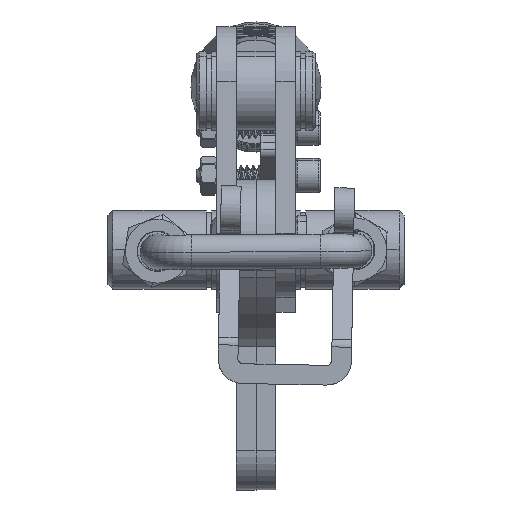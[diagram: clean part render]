
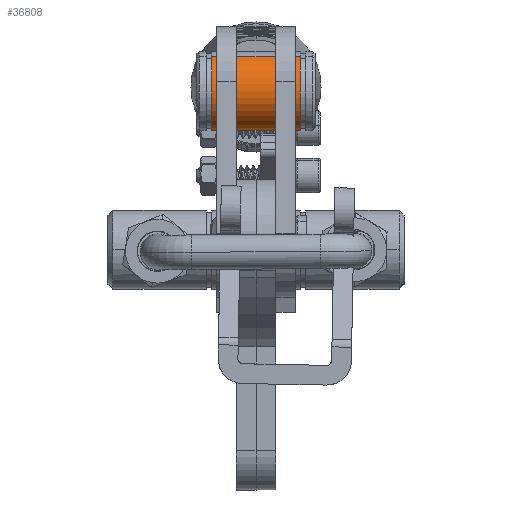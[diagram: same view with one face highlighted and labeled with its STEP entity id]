
A CAD part, left-side view. The second image highlights one B-rep face of the part: STEP entity #36808.
In plain terms, the highlighted cylindrical face has radius 8 mm (diameter 16 mm), a partial arc.
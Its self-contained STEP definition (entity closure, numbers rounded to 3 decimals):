
#2713 = DIRECTION ( 'NONE',  ( -1., 0., 0. ) ) ;
#3429 = LINE ( 'NONE', #18180, #16635 ) ;
#6455 = CARTESIAN_POINT ( 'NONE',  ( -9., 8., 0. ) ) ;
#8659 = FACE_OUTER_BOUND ( 'NONE', #43659, .T. ) ;
#8725 = AXIS2_PLACEMENT_3D ( 'NONE', #47812, #44881, #37368 ) ;
#9012 = EDGE_CURVE ( 'NONE', #45244, #23231, #23413, .T. ) ;
#9397 = EDGE_CURVE ( 'NONE', #28894, #43527, #31273, .T. ) ;
#10599 = ORIENTED_EDGE ( 'NONE', *, *, #47402, .T. ) ;
#15330 = LINE ( 'NONE', #28101, #31307 ) ;
#16635 = VECTOR ( 'NONE', #2713, 1000. ) ;
#18180 = CARTESIAN_POINT ( 'NONE',  ( -12., 8., 0. ) ) ;
#18515 = CARTESIAN_POINT ( 'NONE',  ( -9., -8., 0. ) ) ;
#21461 = CARTESIAN_POINT ( 'NONE',  ( 9., -8., 0. ) ) ;
#21569 = ORIENTED_EDGE ( 'NONE', *, *, #30088, .F. ) ;
#23182 = CYLINDRICAL_SURFACE ( 'NONE', #29452, 8. ) ;
#23231 = VERTEX_POINT ( 'NONE', #37465 ) ;
#23413 = CIRCLE ( 'NONE', #8725, 8. ) ;
#25130 = AXIS2_PLACEMENT_3D ( 'NONE', #30952, #31189, #45708 ) ;
#25340 = ORIENTED_EDGE ( 'NONE', *, *, #9012, .T. ) ;
#26811 = DIRECTION ( 'NONE',  ( 0., -1., 0. ) ) ;
#28101 = CARTESIAN_POINT ( 'NONE',  ( -12., -8., 0. ) ) ;
#28474 = ORIENTED_EDGE ( 'NONE', *, *, #9397, .T. ) ;
#28894 = VERTEX_POINT ( 'NONE', #6455 ) ;
#29452 = AXIS2_PLACEMENT_3D ( 'NONE', #41563, #33825, #26811 ) ;
#30088 = EDGE_CURVE ( 'NONE', #45244, #43527, #15330, .T. ) ;
#30952 = CARTESIAN_POINT ( 'NONE',  ( -9., 0., 0. ) ) ;
#31189 = DIRECTION ( 'NONE',  ( 1., 0., 0. ) ) ;
#31273 = CIRCLE ( 'NONE', #25130, 8. ) ;
#31307 = VECTOR ( 'NONE', #45522, 1000. ) ;
#33825 = DIRECTION ( 'NONE',  ( -1., 0., 0. ) ) ;
#36808 = ADVANCED_FACE ( 'NONE', ( #8659 ), #23182, .T. ) ;
#37368 = DIRECTION ( 'NONE',  ( 0., -1., 0. ) ) ;
#37465 = CARTESIAN_POINT ( 'NONE',  ( 9., 8., 0. ) ) ;
#41563 = CARTESIAN_POINT ( 'NONE',  ( -12., 0., 0. ) ) ;
#43527 = VERTEX_POINT ( 'NONE', #18515 ) ;
#43659 = EDGE_LOOP ( 'NONE', ( #25340, #10599, #28474, #21569 ) ) ;
#44881 = DIRECTION ( 'NONE',  ( -1., 0., 0. ) ) ;
#45244 = VERTEX_POINT ( 'NONE', #21461 ) ;
#45522 = DIRECTION ( 'NONE',  ( -1., 0., 0. ) ) ;
#45708 = DIRECTION ( 'NONE',  ( 0., -1., 0. ) ) ;
#47402 = EDGE_CURVE ( 'NONE', #23231, #28894, #3429, .T. ) ;
#47812 = CARTESIAN_POINT ( 'NONE',  ( 9., 0., 0. ) ) ;
